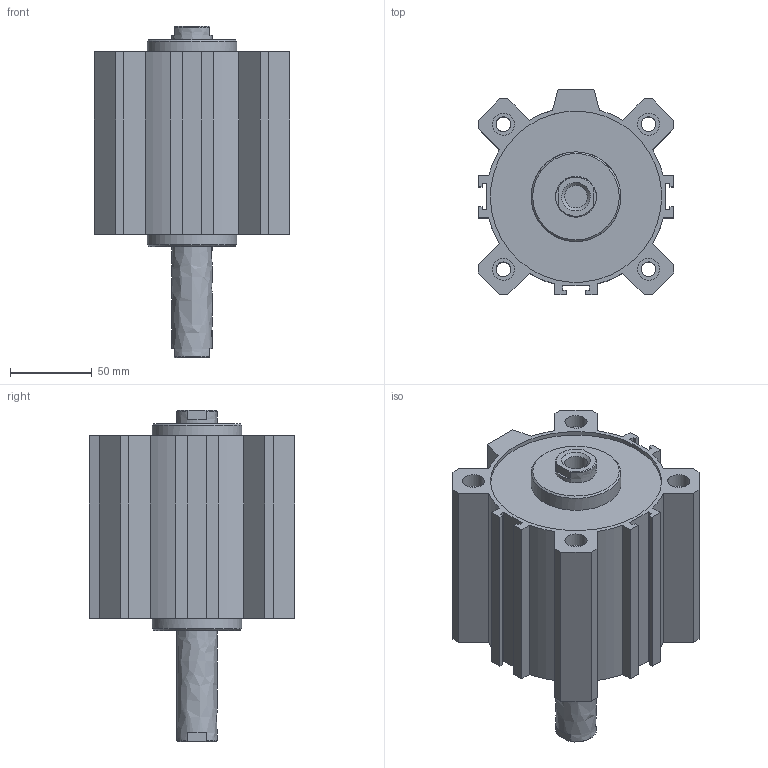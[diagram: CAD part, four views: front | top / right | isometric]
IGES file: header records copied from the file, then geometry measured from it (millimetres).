
Global section: file name: 1514_100_0060; native system: Autodesk Inventor 2014; preprocessor: unknown; author: A. Manieri; date: 20160824.163251; units: millimetre
Bounding box: 120 x 126 x 203 mm (x, y, z)
Volume: 910884.1 mm3; surface area: 191798.3 mm2
Topology: 2 solids, 2 shells, 132 faces, 346 edges, 238 vertices
Faces by surface type: bspline 132
